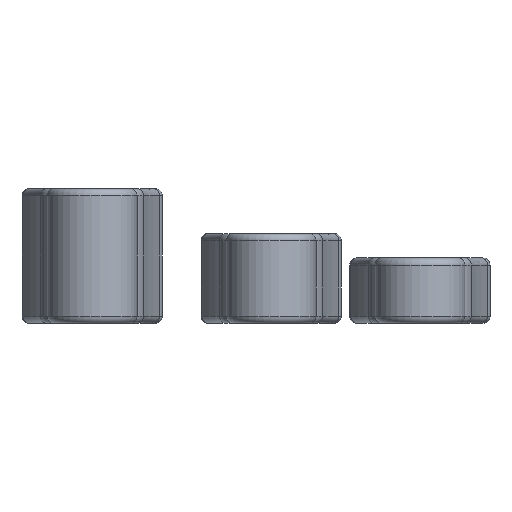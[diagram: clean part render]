
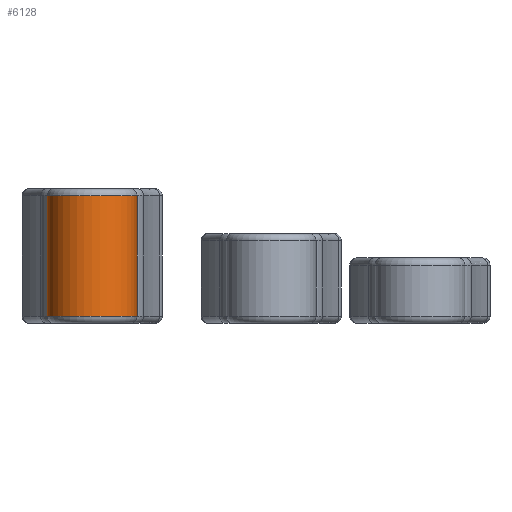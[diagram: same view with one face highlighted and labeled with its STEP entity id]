
A CAD part, left-side view. The second image highlights one B-rep face of the part: STEP entity #6128.
In plain terms, the highlighted cylindrical face has radius 6.35 mm (diameter 12.7 mm), a partial arc.
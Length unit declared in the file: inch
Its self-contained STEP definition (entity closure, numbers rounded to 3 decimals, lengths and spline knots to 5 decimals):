
#681=FACE_OUTER_BOUND('',#1083,.T.);
#1083=EDGE_LOOP('',(#5378,#5379,#5380,#5381));
#1336=LINE('',#11937,#1548);
#1338=LINE('',#11941,#1550);
#1548=VECTOR('',#9359,39.37008);
#1550=VECTOR('',#9363,39.37008);
#2107=CIRCLE('',#7041,0.25);
#2162=CIRCLE('',#7141,0.25);
#2686=VERTEX_POINT('',#11724);
#2688=VERTEX_POINT('',#11730);
#2747=VERTEX_POINT('',#11936);
#2748=VERTEX_POINT('',#11940);
#3539=EDGE_CURVE('',#2686,#2688,#2107,.T.);
#3640=EDGE_CURVE('',#2688,#2747,#1336,.T.);
#3642=EDGE_CURVE('',#2686,#2748,#1338,.T.);
#3643=EDGE_CURVE('',#2747,#2748,#2162,.T.);
#5378=ORIENTED_EDGE('',*,*,#3539,.F.);
#5379=ORIENTED_EDGE('',*,*,#3642,.T.);
#5380=ORIENTED_EDGE('',*,*,#3643,.F.);
#5381=ORIENTED_EDGE('',*,*,#3640,.F.);
#5769=CYLINDRICAL_SURFACE('',#7140,0.25);
#6128=ADVANCED_FACE('',(#681),#5769,.T.);
#7041=AXIS2_PLACEMENT_3D('',#11734,#9115,#9116);
#7140=AXIS2_PLACEMENT_3D('',#11939,#9361,#9362);
#7141=AXIS2_PLACEMENT_3D('',#11942,#9364,#9365);
#9115=DIRECTION('center_axis',(0.,0.,1.));
#9116=DIRECTION('ref_axis',(-1.,0.,0.));
#9359=DIRECTION('',(0.,0.,-1.));
#9361=DIRECTION('center_axis',(0.,0.,-1.));
#9362=DIRECTION('ref_axis',(-1.,0.,0.));
#9363=DIRECTION('',(0.,0.,-1.));
#9364=DIRECTION('center_axis',(0.,0.,-1.));
#9365=DIRECTION('ref_axis',(-1.,0.,0.));
#11724=CARTESIAN_POINT('',(-2.30069,2.07641,0.34649));
#11730=CARTESIAN_POINT('',(-2.30069,1.57641,0.34649));
#11734=CARTESIAN_POINT('Origin',(-2.30069,1.82641,0.34649));
#11936=CARTESIAN_POINT('',(-2.30069,1.57641,-0.32477));
#11937=CARTESIAN_POINT('',(-2.30069,1.57641,0.));
#11939=CARTESIAN_POINT('Origin',(-2.30069,1.82641,0.));
#11940=CARTESIAN_POINT('',(-2.30069,2.07641,-0.32477));
#11941=CARTESIAN_POINT('',(-2.30069,2.07641,0.));
#11942=CARTESIAN_POINT('Origin',(-2.30069,1.82641,-0.32477));
